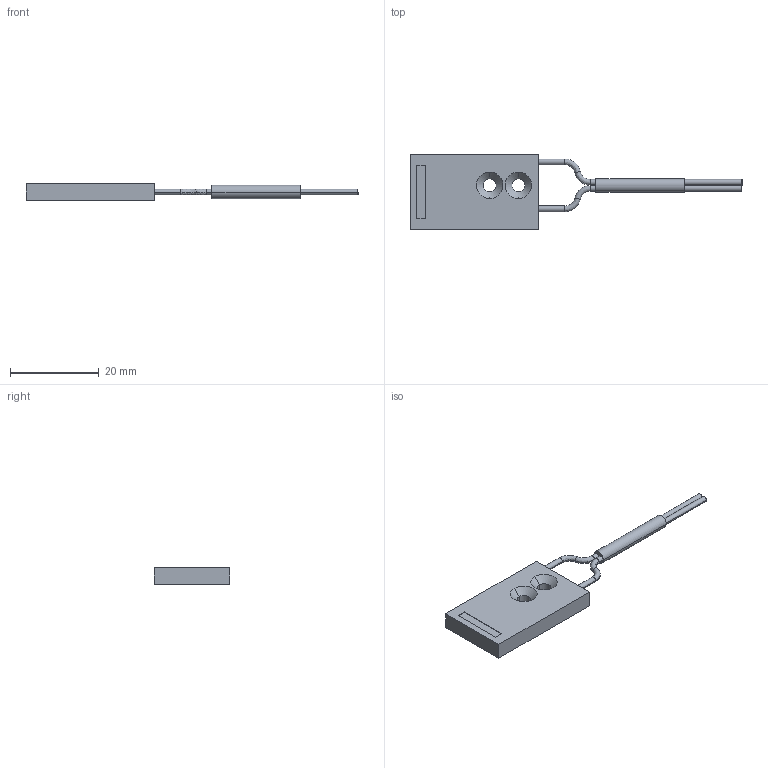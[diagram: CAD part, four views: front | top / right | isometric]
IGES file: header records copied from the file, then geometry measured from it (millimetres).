
Start section: SolidWorks IGES FILE using analytic representation for surfaces
Global section: file name: C:\Documents and Settings\yk0651\デスクトップ\3D_catalog_050904\0_IGES\FD-L43.IGS; native system: SolidWorks 2004 by SolidWorks Corporation; preprocessor: Version 5.3; author: yk0651; date: 050904.185011; units: millimetre
Bounding box: 75 x 17 x 3.8 mm (x, y, z)
Volume: 2005.3 mm3; surface area: 1798.9 mm2
Topology: 1 solids, 1 shells, 45 faces, 98 edges, 60 vertices
Faces by surface type: revolution 30, plane 15
